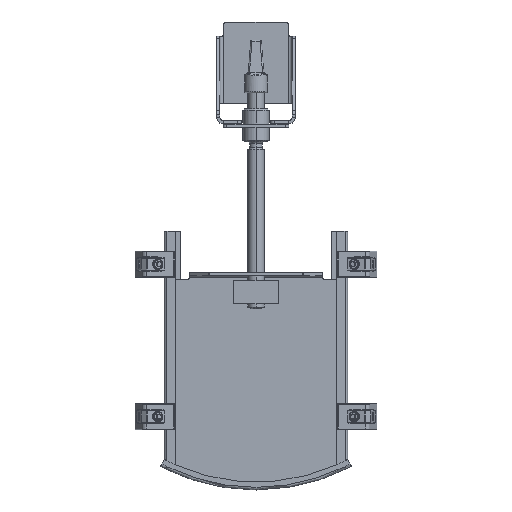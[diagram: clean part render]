
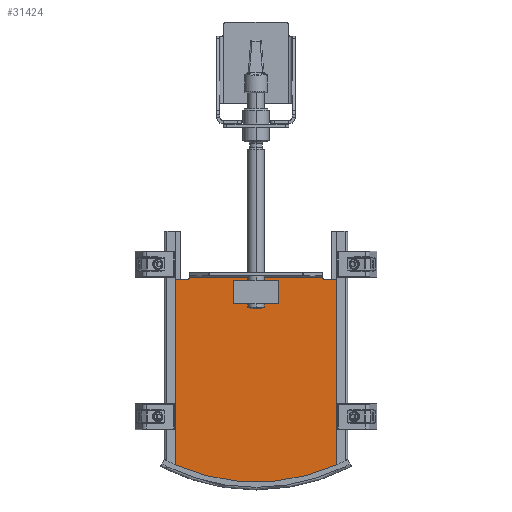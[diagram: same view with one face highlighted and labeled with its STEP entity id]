
A CAD part, top view. The second image highlights one B-rep face of the part: STEP entity #31424.
In plain terms, the highlighted planar face has unit normal (0, 0, 1).
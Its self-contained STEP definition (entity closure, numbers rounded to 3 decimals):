
#301 = CARTESIAN_POINT ( 'NONE',  ( -104., 312., 33. ) ) ;
#1208 = LINE ( 'NONE', #9365, #11335 ) ;
#2711 = VERTEX_POINT ( 'NONE', #14400 ) ;
#2875 = ORIENTED_EDGE ( 'NONE', *, *, #8772, .T. ) ;
#3031 = CIRCLE ( 'NONE', #31965, 300. ) ;
#3323 = EDGE_CURVE ( 'NONE', #17380, #22960, #6912, .T. ) ;
#3741 = DIRECTION ( 'NONE',  ( 0., 0., -1. ) ) ;
#3813 = DIRECTION ( 'NONE',  ( -1., 0., 0. ) ) ;
#4116 = EDGE_CURVE ( 'NONE', #10870, #22960, #20356, .T. ) ;
#4459 = ORIENTED_EDGE ( 'NONE', *, *, #5370, .F. ) ;
#4726 = PLANE ( 'NONE',  #35661 ) ;
#5279 = ORIENTED_EDGE ( 'NONE', *, *, #3323, .T. ) ;
#5370 = EDGE_CURVE ( 'NONE', #12224, #23534, #27826, .T. ) ;
#5776 = CARTESIAN_POINT ( 'NONE',  ( 122.995, 31.851, 33. ) ) ;
#6481 = VERTEX_POINT ( 'NONE', #10753 ) ;
#6912 = CIRCLE ( 'NONE', #31757, 2. ) ;
#7042 = LINE ( 'NONE', #12987, #17977 ) ;
#7060 = EDGE_LOOP ( 'NONE', ( #34846, #2875, #5279, #31594, #25000, #28383, #33107, #12733 ) ) ;
#7253 = FACE_BOUND ( 'NONE', #14726, .T. ) ;
#8148 = EDGE_CURVE ( 'NONE', #6481, #2711, #3031, .T. ) ;
#8632 = CARTESIAN_POINT ( 'NONE',  ( -122.995, 310., 33. ) ) ;
#8667 = DIRECTION ( 'NONE',  ( 0., -1., 0. ) ) ;
#8761 = CARTESIAN_POINT ( 'NONE',  ( 123.172, 310., 33. ) ) ;
#8772 = EDGE_CURVE ( 'NONE', #28916, #17380, #33558, .T. ) ;
#8811 = DIRECTION ( 'NONE',  ( 0., 0., -1. ) ) ;
#9052 = VERTEX_POINT ( 'NONE', #28668 ) ;
#9121 = DIRECTION ( 'NONE',  ( 1., 0., 0. ) ) ;
#9365 = CARTESIAN_POINT ( 'NONE',  ( -34., 307.5, 33. ) ) ;
#9469 = VECTOR ( 'NONE', #9121, 1000. ) ;
#9805 = CARTESIAN_POINT ( 'NONE',  ( 102., 312., 33. ) ) ;
#10598 = CARTESIAN_POINT ( 'NONE',  ( 34., 272.5, 33. ) ) ;
#10753 = CARTESIAN_POINT ( 'NONE',  ( 122.995, 26.372, 33. ) ) ;
#10870 = VERTEX_POINT ( 'NONE', #18248 ) ;
#11100 = VERTEX_POINT ( 'NONE', #12409 ) ;
#11335 = VECTOR ( 'NONE', #31414, 1000. ) ;
#11583 = CIRCLE ( 'NONE', #19690, 2. ) ;
#12224 = VERTEX_POINT ( 'NONE', #28728 ) ;
#12409 = CARTESIAN_POINT ( 'NONE',  ( 34., 307.5, 33. ) ) ;
#12453 = VERTEX_POINT ( 'NONE', #8632 ) ;
#12733 = ORIENTED_EDGE ( 'NONE', *, *, #8148, .F. ) ;
#12987 = CARTESIAN_POINT ( 'NONE',  ( -122.995, -12.001, 33. ) ) ;
#14400 = CARTESIAN_POINT ( 'NONE',  ( -122.995, 26.372, 33. ) ) ;
#14553 = DIRECTION ( 'NONE',  ( 0., 0., -1. ) ) ;
#14726 = EDGE_LOOP ( 'NONE', ( #4459, #28567, #26370, #27892 ) ) ;
#14777 = CARTESIAN_POINT ( 'NONE',  ( 104., 310., 33. ) ) ;
#15024 = VECTOR ( 'NONE', #8667, 1000. ) ;
#16125 = VECTOR ( 'NONE', #3813, 1000. ) ;
#16649 = EDGE_CURVE ( 'NONE', #10870, #9052, #11583, .T. ) ;
#17380 = VERTEX_POINT ( 'NONE', #14777 ) ;
#17975 = LINE ( 'NONE', #20292, #31151 ) ;
#17977 = VECTOR ( 'NONE', #34554, 1000. ) ;
#18248 = CARTESIAN_POINT ( 'NONE',  ( -102., 312., 33. ) ) ;
#19062 = CARTESIAN_POINT ( 'NONE',  ( -34., 272.5, 33. ) ) ;
#19246 = LINE ( 'NONE', #35388, #21943 ) ;
#19365 = LINE ( 'NONE', #5776, #15024 ) ;
#19690 = AXIS2_PLACEMENT_3D ( 'NONE', #301, #8811, #22200 ) ;
#19813 = DIRECTION ( 'NONE',  ( -1., 0., 0. ) ) ;
#20292 = CARTESIAN_POINT ( 'NONE',  ( 34., 307.5, 33. ) ) ;
#20356 = LINE ( 'NONE', #31383, #9469 ) ;
#20640 = CARTESIAN_POINT ( 'NONE',  ( -123.172, 310., 33. ) ) ;
#21009 = FACE_OUTER_BOUND ( 'NONE', #7060, .T. ) ;
#21334 = DIRECTION ( 'NONE',  ( 1., 0., 0. ) ) ;
#21391 = VERTEX_POINT ( 'NONE', #10598 ) ;
#21721 = DIRECTION ( 'NONE',  ( 1., 0., 0. ) ) ;
#21943 = VECTOR ( 'NONE', #21721, 1000. ) ;
#22200 = DIRECTION ( 'NONE',  ( 1., 0., 0. ) ) ;
#22960 = VERTEX_POINT ( 'NONE', #9805 ) ;
#23534 = VERTEX_POINT ( 'NONE', #19062 ) ;
#23785 = EDGE_CURVE ( 'NONE', #9052, #12453, #31339, .T. ) ;
#23921 = DIRECTION ( 'NONE',  ( 0., 0., 1. ) ) ;
#24330 = VECTOR ( 'NONE', #19813, 1000. ) ;
#25000 = ORIENTED_EDGE ( 'NONE', *, *, #16649, .T. ) ;
#25198 = DIRECTION ( 'NONE',  ( 1., 0., 0. ) ) ;
#26125 = CARTESIAN_POINT ( 'NONE',  ( 122.995, 310., 33. ) ) ;
#26370 = ORIENTED_EDGE ( 'NONE', *, *, #27905, .F. ) ;
#27826 = LINE ( 'NONE', #33991, #33129 ) ;
#27892 = ORIENTED_EDGE ( 'NONE', *, *, #34800, .F. ) ;
#27905 = EDGE_CURVE ( 'NONE', #21391, #11100, #17975, .T. ) ;
#28034 = EDGE_CURVE ( 'NONE', #28916, #6481, #19365, .T. ) ;
#28170 = CARTESIAN_POINT ( 'NONE',  ( 0., 300., 33. ) ) ;
#28263 = CARTESIAN_POINT ( 'NONE',  ( 104., 312., 33. ) ) ;
#28383 = ORIENTED_EDGE ( 'NONE', *, *, #23785, .T. ) ;
#28567 = ORIENTED_EDGE ( 'NONE', *, *, #31989, .F. ) ;
#28668 = CARTESIAN_POINT ( 'NONE',  ( -104., 310., 33. ) ) ;
#28728 = CARTESIAN_POINT ( 'NONE',  ( -34., 307.5, 33. ) ) ;
#28899 = DIRECTION ( 'NONE',  ( 1., 0., 0. ) ) ;
#28916 = VERTEX_POINT ( 'NONE', #26125 ) ;
#31151 = VECTOR ( 'NONE', #31327, 1000. ) ;
#31327 = DIRECTION ( 'NONE',  ( 0., 1., 0. ) ) ;
#31339 = LINE ( 'NONE', #20640, #16125 ) ;
#31383 = CARTESIAN_POINT ( 'NONE',  ( -130., 312., 33. ) ) ;
#31414 = DIRECTION ( 'NONE',  ( -1., 0., 0. ) ) ;
#31424 = ADVANCED_FACE ( 'NONE', ( #21009, #7253 ), #4726, .T. ) ;
#31594 = ORIENTED_EDGE ( 'NONE', *, *, #4116, .F. ) ;
#31757 = AXIS2_PLACEMENT_3D ( 'NONE', #28263, #14553, #25198 ) ;
#31965 = AXIS2_PLACEMENT_3D ( 'NONE', #28170, #3741, #28899 ) ;
#31989 = EDGE_CURVE ( 'NONE', #11100, #12224, #1208, .T. ) ;
#33107 = ORIENTED_EDGE ( 'NONE', *, *, #34219, .T. ) ;
#33129 = VECTOR ( 'NONE', #33438, 1000. ) ;
#33438 = DIRECTION ( 'NONE',  ( 0., -1., 0. ) ) ;
#33558 = LINE ( 'NONE', #8761, #24330 ) ;
#33991 = CARTESIAN_POINT ( 'NONE',  ( -34., 307.5, 33. ) ) ;
#34219 = EDGE_CURVE ( 'NONE', #12453, #2711, #7042, .T. ) ;
#34554 = DIRECTION ( 'NONE',  ( 0., -1., 0. ) ) ;
#34800 = EDGE_CURVE ( 'NONE', #23534, #21391, #19246, .T. ) ;
#34846 = ORIENTED_EDGE ( 'NONE', *, *, #28034, .F. ) ;
#35388 = CARTESIAN_POINT ( 'NONE',  ( -34., 272.5, 33. ) ) ;
#35661 = AXIS2_PLACEMENT_3D ( 'NONE', #35681, #23921, #21334 ) ;
#35681 = CARTESIAN_POINT ( 'NONE',  ( -130., 31.851, 33. ) ) ;
